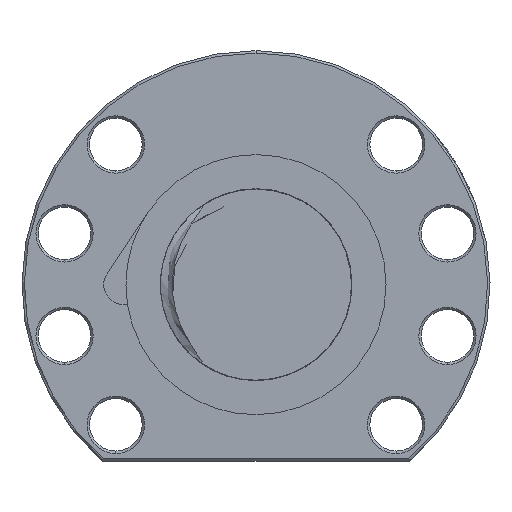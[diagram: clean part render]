
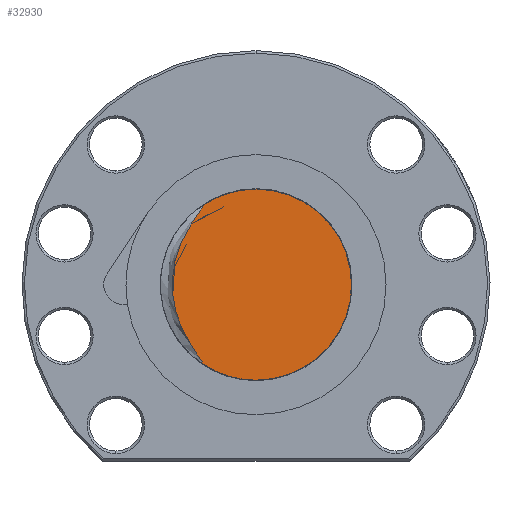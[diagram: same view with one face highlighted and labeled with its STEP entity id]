
A CAD part, left-side view. The second image highlights one B-rep face of the part: STEP entity #32930.
In plain terms, the highlighted planar face has unit normal (-1, 0, 0).
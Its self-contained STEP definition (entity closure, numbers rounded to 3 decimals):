
#18153 = CARTESIAN_POINT ( 'NONE',  ( -320., 11.062, -16.663 ) ) ;
#18154 = CARTESIAN_POINT ( 'NONE',  ( -320., 11.132, -16.484 ) ) ;
#18155 = CARTESIAN_POINT ( 'NONE',  ( -320., 11.219, -16.312 ) ) ;
#18156 = CARTESIAN_POINT ( 'NONE',  ( -320., 11.403, -15.978 ) ) ;
#18157 = CARTESIAN_POINT ( 'NONE',  ( -320., 11.501, -15.815 ) ) ;
#18158 = CARTESIAN_POINT ( 'NONE',  ( -320., 11.804, -15.331 ) ) ;
#18159 = CARTESIAN_POINT ( 'NONE',  ( -320., 12.018, -15.016 ) ) ;
#18160 = CARTESIAN_POINT ( 'NONE',  ( -320., 12.659, -14.07 ) ) ;
#18161 = CARTESIAN_POINT ( 'NONE',  ( -320., 13.089, -13.442 ) ) ;
#18162 = CARTESIAN_POINT ( 'NONE',  ( -320., 13.909, -12.159 ) ) ;
#18163 = CARTESIAN_POINT ( 'NONE',  ( -320., 14.3, -11.507 ) ) ;
#18164 = CARTESIAN_POINT ( 'NONE',  ( -320., 15.022, -10.177 ) ) ;
#18165 = CARTESIAN_POINT ( 'NONE',  ( -320., 15.355, -9.5 ) ) ;
#18166 = CARTESIAN_POINT ( 'NONE',  ( -320., 15.956, -8.115 ) ) ;
#18167 = CARTESIAN_POINT ( 'NONE',  ( -320., 16.225, -7.409 ) ) ;
#18168 = CARTESIAN_POINT ( 'NONE',  ( -320., 16.693, -5.963 ) ) ;
#18169 = CARTESIAN_POINT ( 'NONE',  ( -320., 16.892, -5.224 ) ) ;
#18170 = CARTESIAN_POINT ( 'NONE',  ( -320., 17.365, -3.005 ) ) ;
#18171 = CARTESIAN_POINT ( 'NONE',  ( -320., 17.565, -1.136 ) ) ;
#18172 = CARTESIAN_POINT ( 'NONE',  ( -320., 17.515, 0.759 ) ) ;
#18173 = CARTESIAN_POINT ( 'NONE',  ( -320., 17.474, 1.519 ) ) ;
#18174 = CARTESIAN_POINT ( 'NONE',  ( -320., 17.443, 1.9 ) ) ;
#18175 = CARTESIAN_POINT ( 'NONE',  ( -320., 17.322, 3.033 ) ) ;
#18176 = CARTESIAN_POINT ( 'NONE',  ( -320., 17.201, 3.779 ) ) ;
#18177 = CARTESIAN_POINT ( 'NONE',  ( -320., 16.726, 5.987 ) ) ;
#18178 = CARTESIAN_POINT ( 'NONE',  ( -320., 16.258, 7.424 ) ) ;
#18179 = CARTESIAN_POINT ( 'NONE',  ( -320., 15.041, 10.22 ) ) ;
#18180 = CARTESIAN_POINT ( 'NONE',  ( -320., 14.304, 11.543 ) ) ;
#18181 = CARTESIAN_POINT ( 'NONE',  ( -320., 13.079, 13.458 ) ) ;
#18182 = CARTESIAN_POINT ( 'NONE',  ( -320., 12.649, 14.084 ) ) ;
#18183 = CARTESIAN_POINT ( 'NONE',  ( -320., 12.01, 15.026 ) ) ;
#18184 = CARTESIAN_POINT ( 'NONE',  ( -320., 11.798, 15.34 ) ) ;
#18185 = CARTESIAN_POINT ( 'NONE',  ( -320., 11.497, 15.822 ) ) ;
#18186 = CARTESIAN_POINT ( 'NONE',  ( -320., 11.399, 15.984 ) ) ;
#18187 = CARTESIAN_POINT ( 'NONE',  ( -320., 11.216, 16.315 ) ) ;
#18188 = CARTESIAN_POINT ( 'NONE',  ( -320., 11.131, 16.485 ) ) ;
#18189 = CARTESIAN_POINT ( 'NONE',  ( -320., 11.061, 16.663 ) ) ;
#18191 = B_SPLINE_CURVE_WITH_KNOTS ( 'NONE', 3,
 ( #18189, #18188, #18187, #18186, #18185, #18184, #18183, #18182, #18181, #18180, #18179, #18178, #18177, #18176, #18175, #18174, #18173, #18172, #18171, #18170, #18169, #18168, #18167, #18166, #18165, #18164, #18163, #18162, #18161, #18160, #18159, #18158, #18157, #18156, #18155, #18154, #18153 ),
 .UNSPECIFIED., .F., .F.,
 ( 4, 2, 2, 2, 2, 2, 2, 2, 2, 1, 2, 2, 2, 2, 2, 2, 2, 2, 4 ),
 ( 0.012, 0.013, 0.013, 0.015, 0.017, 0.021, 0.026, 0.028, 0.029, 0.03, 0.035, 0.037, 0.039, 0.041, 0.043, 0.046, 0.047, 0.047, 0.048 ),
 .UNSPECIFIED. ) ;
#32228 = EDGE_CURVE ( 'NONE', #32405, #32382, #38823, .T. ) ;
#32373 = VERTEX_POINT ( 'NONE', #40090 ) ;
#32382 = VERTEX_POINT ( 'NONE', #39956 ) ;
#32384 = EDGE_CURVE ( 'NONE', #32382, #32373, #39954, .T. ) ;
#32403 = EDGE_CURVE ( 'NONE', #32404, #32405, #40378, .T. ) ;
#32404 = VERTEX_POINT ( 'NONE', #40370 ) ;
#32405 = VERTEX_POINT ( 'NONE', #40369 ) ;
#32930 = ADVANCED_FACE ( 'NONE', ( #40730 ), #40729, .F. ) ;
#32931 = ORIENTED_EDGE ( 'NONE', *, *, #32403, .F. ) ;
#33008 = EDGE_LOOP ( 'NONE', ( #32931, #33029, #33033, #33035 ) ) ;
#33029 = ORIENTED_EDGE ( 'NONE', *, *, #33031, .T. ) ;
#33031 = EDGE_CURVE ( 'NONE', #32404, #32373, #18191, .T. ) ;
#33033 = ORIENTED_EDGE ( 'NONE', *, *, #32384, .F. ) ;
#33035 = ORIENTED_EDGE ( 'NONE', *, *, #32228, .F. ) ;
#38819 = DIRECTION ( 'NONE',  ( 0., 1., 0. ) ) ;
#38820 = DIRECTION ( 'NONE',  ( 1., 0., 0. ) ) ;
#38821 = CARTESIAN_POINT ( 'NONE',  ( -320., 0., 0. ) ) ;
#38822 = AXIS2_PLACEMENT_3D ( 'NONE', #38821, #38820, #38819 ) ;
#38823 = CIRCLE ( 'NONE', #38822, 20. ) ;
#39950 = DIRECTION ( 'NONE',  ( 0., 1., 0. ) ) ;
#39951 = DIRECTION ( 'NONE',  ( 1., 0., 0. ) ) ;
#39952 = CARTESIAN_POINT ( 'NONE',  ( -320., 0., 0. ) ) ;
#39953 = AXIS2_PLACEMENT_3D ( 'NONE', #39952, #39951, #39950 ) ;
#39954 = CIRCLE ( 'NONE', #39953, 20. ) ;
#39956 = CARTESIAN_POINT ( 'NONE',  ( -320., 0., -20. ) ) ;
#40090 = CARTESIAN_POINT ( 'NONE',  ( -320., 11.062, -16.663 ) ) ;
#40369 = CARTESIAN_POINT ( 'NONE',  ( -320., 0., 20. ) ) ;
#40370 = CARTESIAN_POINT ( 'NONE',  ( -320., 11.061, 16.663 ) ) ;
#40371 = DIRECTION ( 'NONE',  ( 0., 1., 0. ) ) ;
#40372 = DIRECTION ( 'NONE',  ( 1., 0., 0. ) ) ;
#40373 = CARTESIAN_POINT ( 'NONE',  ( -320., 0., 0. ) ) ;
#40374 = AXIS2_PLACEMENT_3D ( 'NONE', #40373, #40372, #40371 ) ;
#40378 = CIRCLE ( 'NONE', #40374, 20. ) ;
#40725 = DIRECTION ( 'NONE',  ( 0., 0., -1. ) ) ;
#40726 = DIRECTION ( 'NONE',  ( 1., 0., 0. ) ) ;
#40727 = CARTESIAN_POINT ( 'NONE',  ( -320., 0., 0. ) ) ;
#40728 = AXIS2_PLACEMENT_3D ( 'NONE', #40727, #40726, #40725 ) ;
#40729 = PLANE ( 'NONE',  #40728 ) ;
#40730 = FACE_OUTER_BOUND ( 'NONE', #33008, .T. ) ;
